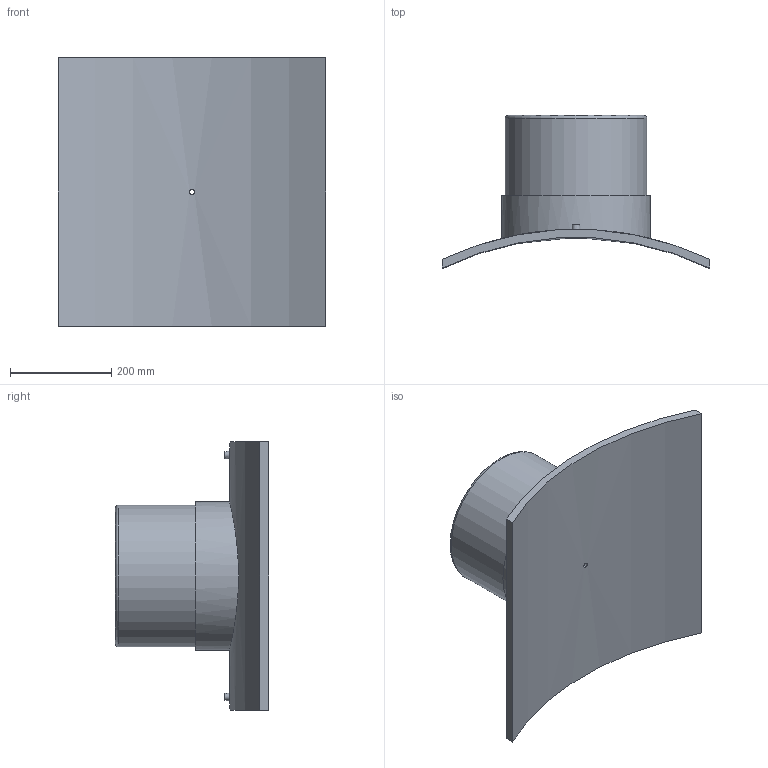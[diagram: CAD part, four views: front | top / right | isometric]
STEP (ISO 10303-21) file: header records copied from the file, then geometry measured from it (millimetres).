
FILE_DESCRIPTION(/* description */ ('PLASSON BRANCH SADDLE 1200x280'),/* implementation_level */ '2;1');
FILE_NAME(/* name */ 'C:\Dropbox\99-16-3568-Processing\ElectroFusion Fittings\495803\4958031200280T.ipt.stp',/* time_stamp */ '2021-02-25T09:43:42+02:00',/* author */ ('KIM'),/* organization */ (''),/* preprocessor_version */ 'ST-DEVELOPER v17.2',/* originating_system */ 'Autodesk Inventor 2019',/* authorisation */ '');
FILE_SCHEMA (('AUTOMOTIVE_DESIGN { 1 0 10303 214 3 1 1 }'));
Length unit declared in the file: millimetre
Products named in the file (1): 4958031200280T
Bounding box: 527 x 301.96 x 530 mm (x, y, z)
Volume: 10237444.3 mm3; surface area: 992029 mm2
Topology: 1 solids, 1 shells, 29 faces, 60 edges, 43 vertices
Faces by surface type: plane 13, cylinder 12, torus 2, cone 2
Full cylindrical faces by diameter (mm): 4 x2, 9.6 x1, 10 x2, 16 x1, 224 x1, 280 x1, 294 x1
Entity records: 1086 total; most frequent: CARTESIAN_POINT 400, DIRECTION 139, ORIENTED_EDGE 120, EDGE_CURVE 60, AXIS2_PLACEMENT_3D 60, VERTEX_POINT 43, EDGE_LOOP 41, CIRCLE 30
